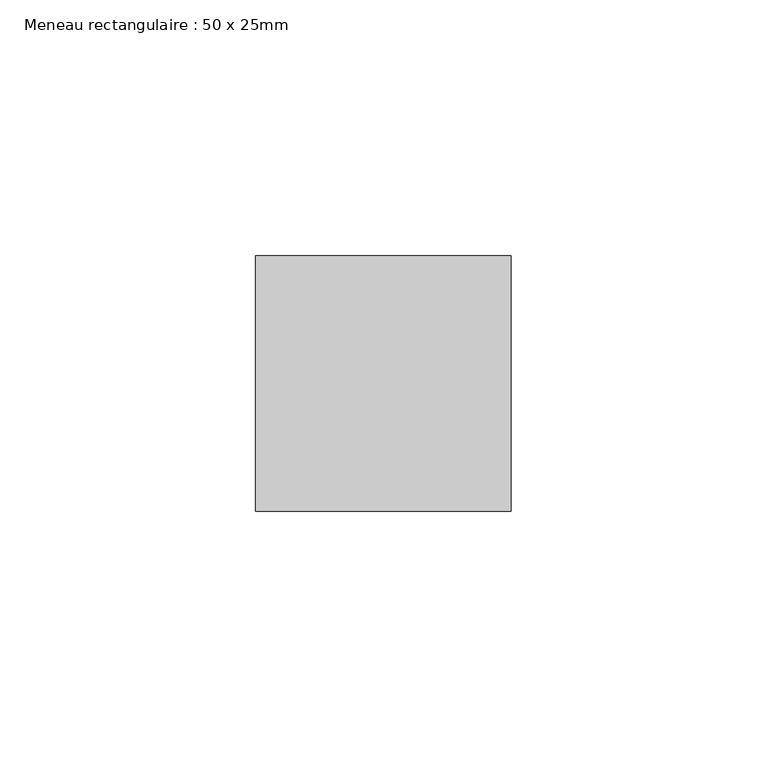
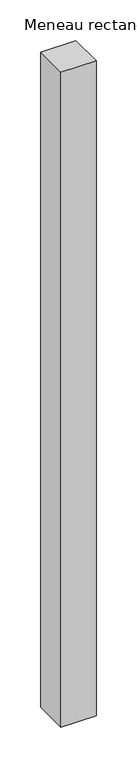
"""IFC4 building model written with IfcOpenShell, lengths in millimetres: member geometry, Meneau rectangulaire : 50 x 25mm."""

from ifc_helpers import new_model, si_unit, frame, origin, place, context, project, spatial, polyline, outline, extrude, source, transform, mapped, element, save


def meneau_rectangulaire_50_x_25mm_a44593a5(model_context):
    return source(origin(), model_context, "Body", "SweptSolid", [
        extrude(outline(polyline([(0.0, 0.0), (0.0, -50.0), (-50.0, -50.0), (-50.0, 0.0), (0.0, 0.0)])), frame((0.0, 0.0, -983.6998293), z_axis=(0.0, 0.0, 1.0), x_axis=(1.0, 0.0, 0.0)), (0.0, 0.0, 1.0), 983.6998293),
    ])


if __name__ == "__main__":
    model = new_model("IFC4")
    model_context = context("Model", 3, world=origin())
    ifc_project = project(units=[si_unit("LENGTHUNIT", "METRE", prefix="MILLI")], contexts=[model_context])
    site = spatial("IfcSite", under=ifc_project)
    building = spatial("IfcBuilding", under=site)
    placement = place(None, origin())
    meneau_rectangulaire_50_x_25mm_shape = meneau_rectangulaire_50_x_25mm_a44593a5(model_context)
    element("IfcMember", 1, ObjectType="Meneau rectangulaire : 50 x 25mm", at=placement, inside=building, context=model_context, shape_type="MappedRepresentation", body=[
        mapped(meneau_rectangulaire_50_x_25mm_shape, transform((0.0, 0.0, 0.0), x_axis=(1.0, 0.0, 0.0), y_axis=(0.0, 1.0, 0.0), z_axis=(0.0, 0.0, 1.0))),
    ])
    save(model, "model.ifc")
